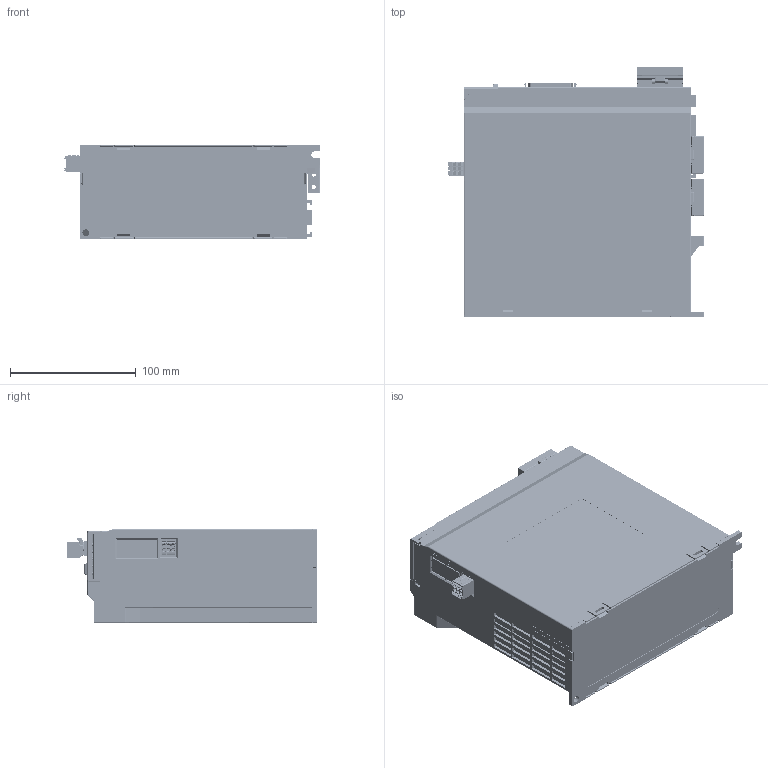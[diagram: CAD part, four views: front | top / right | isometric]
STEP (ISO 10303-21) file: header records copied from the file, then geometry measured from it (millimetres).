
FILE_DESCRIPTION((''),'2;1');
FILE_NAME('2ES3-10BAI_ASM','2026-03-03T11:44:15',('Admin'),(''),'CREO PARAMETRIC BY PTC INC, 2020074','CREO PARAMETRIC BY PTC INC, 2020074','');
FILE_SCHEMA(('CONFIG_CONTROL_DESIGN'));
Products named in the file (41): 2ES3-10BNI-DOWN; 2ES3-10BAI-UP; PCB; USER_LIBRARY-53460-0611_S; 9EDGRC-7_5-05P-1Y-100Z_H__; 9EDGRC-7_5-04P-1Y-100Z_H; 9EDGRC-7_5-04; STGIB10CH60TS-L; D25SB80; 01008-UCAF004-A_TY0001; _X2_58515C014F53_X0_; TO-263_X2_684667B6_X0_-1462; TO-263_X2_684667B6_X0_-1463; TO-263_X2_684667B6_X0_-1464; TO-263_X2_684667B6_X0_-83_ASM; T020N065E_6__; D220E7L_5__; _X2_95215C42_X0_50UM-1488; _X2_95215C42_X0_50UM-1489; _X2_95215C42_X0_50UM-107_ASM; 12MIL_X2_94DD4E1D_X0_-115; 12MIL_X2_94DD4E1D_X0_-123; 5MIL_X2_94DD4E1D_X0_; 12MIL_X2_94DD4E1D_X0_-139; TO-263-JT020N065SED_1_ASM; TO-263-JT020N065SED_ASM; 2-RJ45; 15EDGRHC-THR-3_5-06P-1Y-1000Z_H; SCSI_CA-50P_9000; 2ES3-10BAI-PCBA_ASM; 9EDGK-7_5-04P-1Y-1000A_Z_H_; AS2E-PCB-K; COVER; RXLB-80W; RXLB-75W-50R-J-3963; 5020Y1_1; 5020K1_ASM_1_ASM; 5020K1Y1_ASM; 15EDGKNH-3_5-06P; 9EDGK-7_5-05P-1Y-1000A_Z_H_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
Assembly tree (43 placements, depth 6):
  2ES3-10BAI_ASM
    2ES3-10BNI-DOWN
    2ES3-10BAI-UP
    2ES3-10BAI-PCBA_ASM
      PCB
      USER_LIBRARY-53460-0611_S  x2
      9EDGRC-7_5-05P-1Y-100Z_H__
      9EDGRC-7_5-04P-1Y-100Z_H
      9EDGRC-7_5-04
      STGIB10CH60TS-L  x2
      D25SB80
      01008-UCAF004-A_TY0001
      TO-263-JT020N065SED_ASM
        TO-263-JT020N065SED_1_ASM
          _X2_58515C014F53_X0_
          TO-263_X2_684667B6_X0_-83_ASM
            TO-263_X2_684667B6_X0_-1462
            TO-263_X2_684667B6_X0_-1463
            TO-263_X2_684667B6_X0_-1464
          T020N065E_6__
          D220E7L_5__
          _X2_95215C42_X0_50UM-107_ASM
            _X2_95215C42_X0_50UM-1488
            _X2_95215C42_X0_50UM-1489
          12MIL_X2_94DD4E1D_X0_-115
          12MIL_X2_94DD4E1D_X0_-123
          5MIL_X2_94DD4E1D_X0_
          12MIL_X2_94DD4E1D_X0_-139
      2-RJ45
      15EDGRHC-THR-3_5-06P-1Y-1000Z_H
      SCSI_CA-50P_9000
    9EDGK-7_5-04P-1Y-1000A_Z_H_  x2
    AS2E-PCB-K
    COVER
    RXLB-80W
    RXLB-75W-50R-J-3963
    5020K1Y1_ASM
      5020K1_ASM_1_ASM
        5020Y1_1
    15EDGKNH-3_5-06P
    9EDGK-7_5-05P-1Y-1000A_Z_H_
Bounding box: 203.69 x 198.69 x 75 mm (x, y, z)
Volume: 2801984.4 mm3; surface area: 455013.9 mm2
Topology: 36 solids, 64 shells, 12952 faces, 36670 edges, 24100 vertices
Faces by surface type: plane 9535, cylinder 2238, extrusion 322, bspline 266, torus 258, cone 249, sphere 84
Entity records: 398175 total; most frequent: CARTESIAN_POINT 97601, ORIENTED_EDGE 65660, DIRECTION 57154, EDGE_CURVE 32842, VECTOR 25948, LINE 25654, VERTEX_POINT 21668, AXIS2_PLACEMENT_3D 15603
